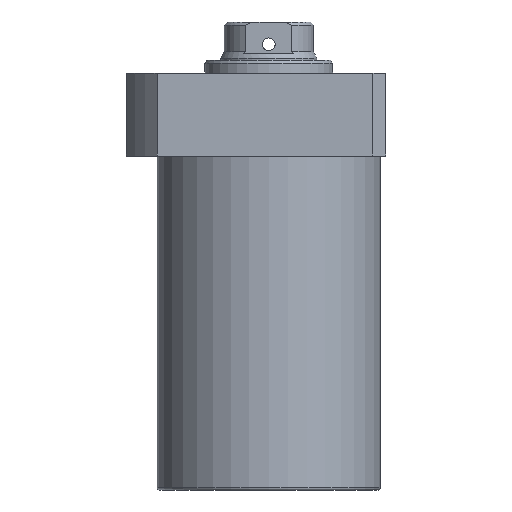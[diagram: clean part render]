
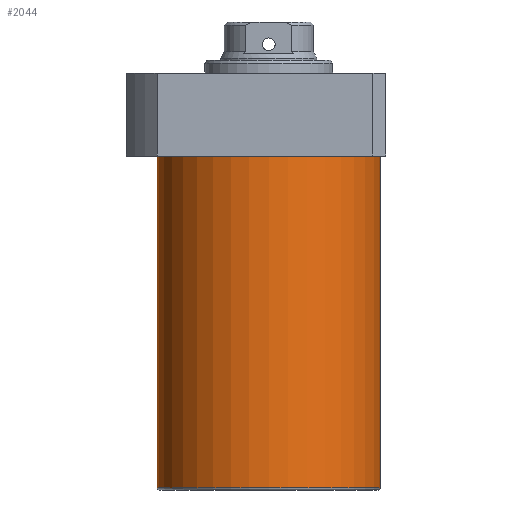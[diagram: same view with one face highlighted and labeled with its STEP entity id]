
A CAD part, front view. The second image highlights one B-rep face of the part: STEP entity #2044.
In plain terms, the highlighted cylindrical face has radius 52.5 mm (diameter 105 mm), a partial arc.
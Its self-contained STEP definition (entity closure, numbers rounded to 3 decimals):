
#14 = LINE ( 'NONE', #1966, #346 ) ;
#46 = AXIS2_PLACEMENT_3D ( 'NONE', #112, #1508, #105 ) ;
#82 = CIRCLE ( 'NONE', #636, 52.5 ) ;
#105 = DIRECTION ( 'NONE',  ( -1., 0., 0. ) ) ;
#112 = CARTESIAN_POINT ( 'NONE',  ( 0., 0., -175.5 ) ) ;
#185 = DIRECTION ( 'NONE',  ( 1., 0., 0. ) ) ;
#346 = VECTOR ( 'NONE', #953, 1000. ) ;
#401 = ORIENTED_EDGE ( 'NONE', *, *, #1484, .T. ) ;
#426 = EDGE_LOOP ( 'NONE', ( #1485, #796, #2216, #401 ) ) ;
#636 = AXIS2_PLACEMENT_3D ( 'NONE', #666, #1185, #185 ) ;
#641 = CYLINDRICAL_SURFACE ( 'NONE', #1929, 52.5 ) ;
#666 = CARTESIAN_POINT ( 'NONE',  ( 0., 0., -19.5 ) ) ;
#713 = CARTESIAN_POINT ( 'NONE',  ( 52.5, 0., -175.5 ) ) ;
#796 = ORIENTED_EDGE ( 'NONE', *, *, #1997, .T. ) ;
#820 = CARTESIAN_POINT ( 'NONE',  ( 0., 0., -176.5 ) ) ;
#838 = FACE_OUTER_BOUND ( 'NONE', #426, .T. ) ;
#953 = DIRECTION ( 'NONE',  ( 0., 0., 1. ) ) ;
#1059 = CARTESIAN_POINT ( 'NONE',  ( 52.5, 0., -19.5 ) ) ;
#1103 = VERTEX_POINT ( 'NONE', #713 ) ;
#1126 = EDGE_CURVE ( 'NONE', #1103, #1167, #2059, .T. ) ;
#1167 = VERTEX_POINT ( 'NONE', #1059 ) ;
#1185 = DIRECTION ( 'NONE',  ( 0., 0., -1. ) ) ;
#1202 = VERTEX_POINT ( 'NONE', #1760 ) ;
#1313 = DIRECTION ( 'NONE',  ( 0., 0., 1. ) ) ;
#1318 = CIRCLE ( 'NONE', #46, 52.5 ) ;
#1484 = EDGE_CURVE ( 'NONE', #1167, #1670, #82, .T. ) ;
#1485 = ORIENTED_EDGE ( 'NONE', *, *, #1945, .F. ) ;
#1494 = VECTOR ( 'NONE', #1732, 1000. ) ;
#1508 = DIRECTION ( 'NONE',  ( 0., 0., 1. ) ) ;
#1670 = VERTEX_POINT ( 'NONE', #2090 ) ;
#1732 = DIRECTION ( 'NONE',  ( 0., 0., 1. ) ) ;
#1760 = CARTESIAN_POINT ( 'NONE',  ( -52.5, 0., -175.5 ) ) ;
#1929 = AXIS2_PLACEMENT_3D ( 'NONE', #820, #1313, #2019 ) ;
#1945 = EDGE_CURVE ( 'NONE', #1202, #1670, #14, .T. ) ;
#1966 = CARTESIAN_POINT ( 'NONE',  ( -52.5, 0., -176.5 ) ) ;
#1997 = EDGE_CURVE ( 'NONE', #1202, #1103, #1318, .T. ) ;
#2019 = DIRECTION ( 'NONE',  ( 1., 0., 0. ) ) ;
#2044 = ADVANCED_FACE ( 'NONE', ( #838 ), #641, .T. ) ;
#2059 = LINE ( 'NONE', #2075, #1494 ) ;
#2075 = CARTESIAN_POINT ( 'NONE',  ( 52.5, 0., -176.5 ) ) ;
#2090 = CARTESIAN_POINT ( 'NONE',  ( -52.5, 0., -19.5 ) ) ;
#2216 = ORIENTED_EDGE ( 'NONE', *, *, #1126, .T. ) ;
